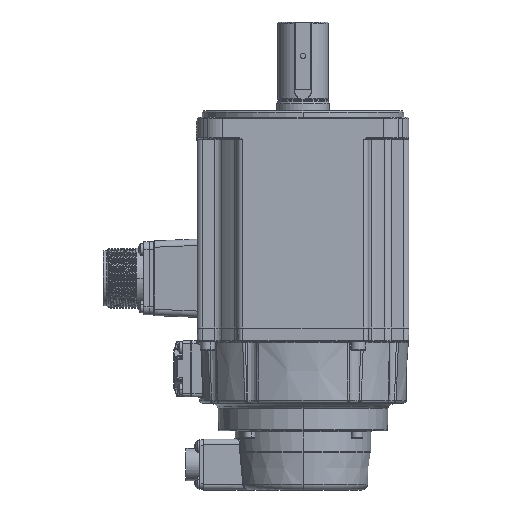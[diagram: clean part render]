
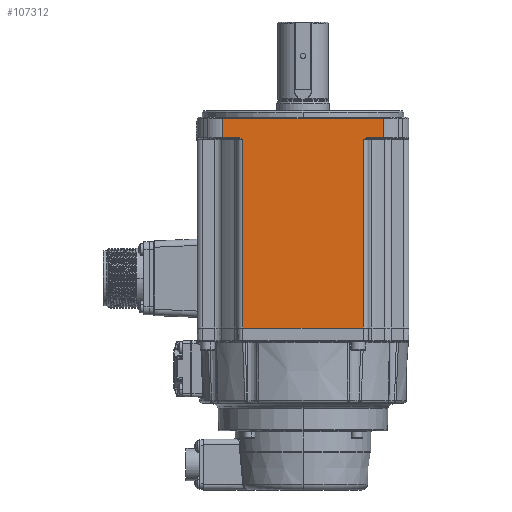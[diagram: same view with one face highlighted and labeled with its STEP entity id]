
A CAD part, left-side view. The second image highlights one B-rep face of the part: STEP entity #107312.
In plain terms, the highlighted planar face has unit normal (-1, 0, 0).
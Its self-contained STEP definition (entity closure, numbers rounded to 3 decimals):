
#189 = ORIENTED_EDGE ( 'NONE', *, *, #10739, .T. ) ;
#2001 = LINE ( 'NONE', #11360, #70168 ) ;
#2562 = DIRECTION ( 'NONE',  ( 0., 0., 1. ) ) ;
#4563 = CARTESIAN_POINT ( 'NONE',  ( -50., 28.839, -13.36 ) ) ;
#5706 = CARTESIAN_POINT ( 'NONE',  ( -50., 30.315, -12.6 ) ) ;
#6584 = LINE ( 'NONE', #113158, #63583 ) ;
#7642 = PLANE ( 'NONE',  #107720 ) ;
#7837 = CARTESIAN_POINT ( 'NONE',  ( -50., -28.5, -13.6 ) ) ;
#9419 = ORIENTED_EDGE ( 'NONE', *, *, #113597, .T. ) ;
#9582 = EDGE_LOOP ( 'NONE', ( #95341, #189, #34315, #31535, #59490, #49221, #9419, #30762, #114442, #62335 ) ) ;
#10729 = CARTESIAN_POINT ( 'NONE',  ( -50., -29.912, -12.743 ) ) ;
#10739 = EDGE_CURVE ( 'NONE', #60106, #89670, #32098, .T. ) ;
#11360 = CARTESIAN_POINT ( 'NONE',  ( -50., -37.858, -310.121 ) ) ;
#13944 = CARTESIAN_POINT ( 'NONE',  ( -50., 29.178, -13.12 ) ) ;
#14712 = DIRECTION ( 'NONE',  ( -1., 0., 0. ) ) ;
#15090 = CARTESIAN_POINT ( 'NONE',  ( -50., 30.736, -12.6 ) ) ;
#15281 = FACE_OUTER_BOUND ( 'NONE', #9582, .T. ) ;
#15503 = EDGE_CURVE ( 'NONE', #76691, #47956, #43704, .T. ) ;
#17849 = CARTESIAN_POINT ( 'NONE',  ( -50., 37.858, -310.121 ) ) ;
#18020 = VERTEX_POINT ( 'NONE', #30584 ) ;
#21285 = LINE ( 'NONE', #109696, #84844 ) ;
#21936 = VECTOR ( 'NONE', #46747, 1000. ) ;
#22982 = CARTESIAN_POINT ( 'NONE',  ( -50., 28.5, -102.5 ) ) ;
#27772 = DIRECTION ( 'NONE',  ( 0., 0., -1. ) ) ;
#29827 = LINE ( 'NONE', #36331, #21936 ) ;
#30584 = CARTESIAN_POINT ( 'NONE',  ( -50., -30.736, -12.6 ) ) ;
#30762 = ORIENTED_EDGE ( 'NONE', *, *, #49391, .T. ) ;
#30946 = CARTESIAN_POINT ( 'NONE',  ( -50., -42., -12.6 ) ) ;
#31535 = ORIENTED_EDGE ( 'NONE', *, *, #100180, .T. ) ;
#32098 = LINE ( 'NONE', #40868, #95414 ) ;
#32433 = CARTESIAN_POINT ( 'NONE',  ( -50., -28.5, -13.6 ) ) ;
#34315 = ORIENTED_EDGE ( 'NONE', *, *, #95480, .T. ) ;
#36331 = CARTESIAN_POINT ( 'NONE',  ( -50., -42., -12.6 ) ) ;
#37671 = DIRECTION ( 'NONE',  ( 0., 0., 1. ) ) ;
#39639 = CARTESIAN_POINT ( 'NONE',  ( -50., 29.912, -12.743 ) ) ;
#40868 = CARTESIAN_POINT ( 'NONE',  ( -50., -42., -102.5 ) ) ;
#43704 = B_SPLINE_CURVE_WITH_KNOTS ( 'NONE', 3,
 ( #15090, #5706, #39639, #13944, #4563, #84929 ),
 .UNSPECIFIED., .F., .F.,
 ( 4, 2, 4 ),
 ( 0., 0.001, 0.002 ),
 .UNSPECIFIED. ) ;
#46747 = DIRECTION ( 'NONE',  ( 0., -1., 0. ) ) ;
#46916 = EDGE_CURVE ( 'NONE', #108378, #74836, #2001, .T. ) ;
#47956 = VERTEX_POINT ( 'NONE', #62841 ) ;
#48511 = VECTOR ( 'NONE', #84436, 1000. ) ;
#49221 = ORIENTED_EDGE ( 'NONE', *, *, #46916, .T. ) ;
#49391 = EDGE_CURVE ( 'NONE', #86111, #109359, #104698, .T. ) ;
#50414 = B_SPLINE_CURVE_WITH_KNOTS ( 'NONE', 3,
 ( #7837, #52167, #78908, #10729, #71923, #98044 ),
 .UNSPECIFIED., .F., .F.,
 ( 4, 2, 4 ),
 ( 0., 0.001, 0.002 ),
 .UNSPECIFIED. ) ;
#52167 = CARTESIAN_POINT ( 'NONE',  ( -50., -28.839, -13.36 ) ) ;
#53517 = VERTEX_POINT ( 'NONE', #32433 ) ;
#53863 = VECTOR ( 'NONE', #27772, 1000. ) ;
#54087 = LINE ( 'NONE', #108719, #108136 ) ;
#57248 = CARTESIAN_POINT ( 'NONE',  ( -50., 30.736, -12.6 ) ) ;
#57453 = CARTESIAN_POINT ( 'NONE',  ( -50., -37.858, -3.5 ) ) ;
#59490 = ORIENTED_EDGE ( 'NONE', *, *, #98784, .T. ) ;
#60106 = VERTEX_POINT ( 'NONE', #22982 ) ;
#62335 = ORIENTED_EDGE ( 'NONE', *, *, #15503, .T. ) ;
#62841 = CARTESIAN_POINT ( 'NONE',  ( -50., 28.5, -13.6 ) ) ;
#63583 = VECTOR ( 'NONE', #103235, 1000. ) ;
#68569 = CARTESIAN_POINT ( 'NONE',  ( -50., -28.5, -102.5 ) ) ;
#70168 = VECTOR ( 'NONE', #37671, 1000. ) ;
#71923 = CARTESIAN_POINT ( 'NONE',  ( -50., -30.315, -12.6 ) ) ;
#72213 = CARTESIAN_POINT ( 'NONE',  ( -50., 37.858, -12.6 ) ) ;
#73850 = DIRECTION ( 'NONE',  ( 0., 1., 0. ) ) ;
#74836 = VERTEX_POINT ( 'NONE', #57453 ) ;
#76691 = VERTEX_POINT ( 'NONE', #57248 ) ;
#77013 = DIRECTION ( 'NONE',  ( 0., -1., 0. ) ) ;
#77454 = DIRECTION ( 'NONE',  ( 0., -1., 0. ) ) ;
#78908 = CARTESIAN_POINT ( 'NONE',  ( -50., -29.178, -13.12 ) ) ;
#79977 = EDGE_CURVE ( 'NONE', #109359, #76691, #29827, .T. ) ;
#84436 = DIRECTION ( 'NONE',  ( 0., -1., 0. ) ) ;
#84844 = VECTOR ( 'NONE', #2562, 1000. ) ;
#84929 = CARTESIAN_POINT ( 'NONE',  ( -50., 28.5, -13.6 ) ) ;
#86111 = VERTEX_POINT ( 'NONE', #109732 ) ;
#89587 = CARTESIAN_POINT ( 'NONE',  ( -50., -37.858, -12.6 ) ) ;
#89670 = VERTEX_POINT ( 'NONE', #68569 ) ;
#95341 = ORIENTED_EDGE ( 'NONE', *, *, #112818, .F. ) ;
#95414 = VECTOR ( 'NONE', #77454, 1000. ) ;
#95480 = EDGE_CURVE ( 'NONE', #89670, #53517, #21285, .T. ) ;
#98044 = CARTESIAN_POINT ( 'NONE',  ( -50., -30.736, -12.6 ) ) ;
#98784 = EDGE_CURVE ( 'NONE', #18020, #108378, #110043, .T. ) ;
#100180 = EDGE_CURVE ( 'NONE', #53517, #18020, #50414, .T. ) ;
#103235 = DIRECTION ( 'NONE',  ( 0., 0., 1. ) ) ;
#104698 = LINE ( 'NONE', #17849, #53863 ) ;
#104853 = CARTESIAN_POINT ( 'NONE',  ( -50., -42., -310.121 ) ) ;
#107312 = ADVANCED_FACE ( 'NONE', ( #15281 ), #7642, .T. ) ;
#107720 = AXIS2_PLACEMENT_3D ( 'NONE', #104853, #14712, #77013 ) ;
#108136 = VECTOR ( 'NONE', #73850, 1000. ) ;
#108378 = VERTEX_POINT ( 'NONE', #89587 ) ;
#108719 = CARTESIAN_POINT ( 'NONE',  ( -50., 37.858, -3.5 ) ) ;
#109359 = VERTEX_POINT ( 'NONE', #72213 ) ;
#109696 = CARTESIAN_POINT ( 'NONE',  ( -50., -28.5, -168.7 ) ) ;
#109732 = CARTESIAN_POINT ( 'NONE',  ( -50., 37.858, -3.5 ) ) ;
#110043 = LINE ( 'NONE', #30946, #48511 ) ;
#112818 = EDGE_CURVE ( 'NONE', #60106, #47956, #6584, .T. ) ;
#113158 = CARTESIAN_POINT ( 'NONE',  ( -50., 28.5, -168.7 ) ) ;
#113597 = EDGE_CURVE ( 'NONE', #74836, #86111, #54087, .T. ) ;
#114442 = ORIENTED_EDGE ( 'NONE', *, *, #79977, .T. ) ;
